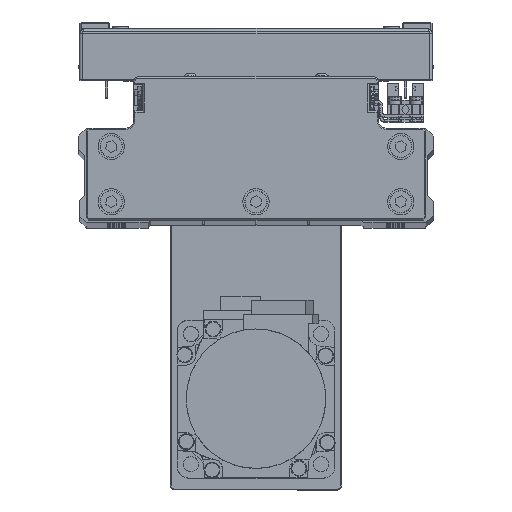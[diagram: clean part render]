
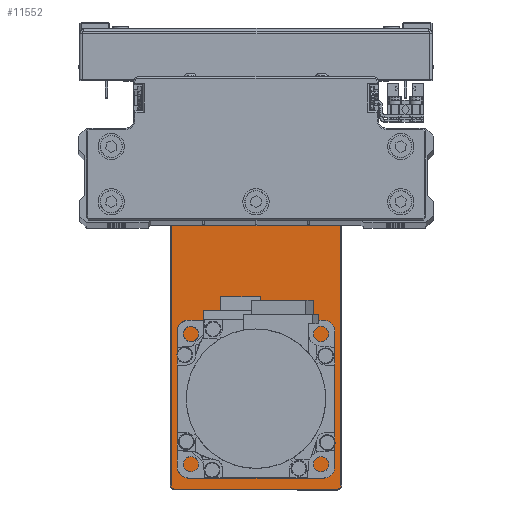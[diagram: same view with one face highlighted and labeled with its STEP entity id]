
A CAD part, top view. The second image highlights one B-rep face of the part: STEP entity #11552.
In plain terms, the highlighted planar face has unit normal (0, 0, 1) as drawn and (0, 1, 0) by its records, which use the part's own axes.
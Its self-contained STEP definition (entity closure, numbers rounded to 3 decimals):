
#271 = AXIS2_PLACEMENT_3D ( 'NONE', #2492, #16356, #30215 ) ;
#408 = DIRECTION ( 'NONE',  ( 0., 1., 0. ) ) ;
#1255 = VERTEX_POINT ( 'NONE', #27434 ) ;
#1323 = CARTESIAN_POINT ( 'NONE',  ( 84.7, 6., 0. ) ) ;
#1482 = VERTEX_POINT ( 'NONE', #32830 ) ;
#2011 = CARTESIAN_POINT ( 'NONE',  ( 75.992, 6., -8.551 ) ) ;
#2041 = CARTESIAN_POINT ( 'NONE',  ( 83.5, 6., 32.2 ) ) ;
#2192 = EDGE_CURVE ( 'NONE', #19247, #6097, #32470, .T. ) ;
#2254 = FACE_BOUND ( 'NONE', #6514, .T. ) ;
#2405 = DIRECTION ( 'NONE',  ( 0., 1., 0. ) ) ;
#2492 = CARTESIAN_POINT ( 'NONE',  ( -83.5, 6., -31. ) ) ;
#2595 = EDGE_CURVE ( 'NONE', #15942, #41357, #5531, .T. ) ;
#3118 = ORIENTED_EDGE ( 'NONE', *, *, #16363, .F. ) ;
#4341 = ORIENTED_EDGE ( 'NONE', *, *, #28495, .T. ) ;
#4578 = AXIS2_PLACEMENT_3D ( 'NONE', #30291, #44076, #13016 ) ;
#4676 = CIRCLE ( 'NONE', #30086, 10.3 ) ;
#4925 = AXIS2_PLACEMENT_3D ( 'NONE', #31547, #408, #14288 ) ;
#4938 = EDGE_CURVE ( 'NONE', #21101, #28999, #9535, .T. ) ;
#5013 = CARTESIAN_POINT ( 'NONE',  ( 84.7, 6., -31. ) ) ;
#5496 = ORIENTED_EDGE ( 'NONE', *, *, #11700, .F. ) ;
#5531 = CIRCLE ( 'NONE', #30914, 1.525 ) ;
#6097 = VERTEX_POINT ( 'NONE', #5013 ) ;
#6270 = EDGE_CURVE ( 'NONE', #42596, #20094, #43840, .T. ) ;
#6514 = EDGE_LOOP ( 'NONE', ( #3118, #32304 ) ) ;
#7553 = DIRECTION ( 'NONE',  ( 0., 1., 0. ) ) ;
#8206 = LINE ( 'NONE', #22080, #15590 ) ;
#8222 = ORIENTED_EDGE ( 'NONE', *, *, #10409, .T. ) ;
#9305 = DIRECTION ( 'NONE',  ( 0., -1., 0. ) ) ;
#9535 = LINE ( 'NONE', #23414, #27851 ) ;
#9798 = CARTESIAN_POINT ( 'NONE',  ( 52.5, 6., -10.3 ) ) ;
#9975 = DIRECTION ( 'NONE',  ( 1., 0., 0. ) ) ;
#10071 = DIRECTION ( 'NONE',  ( 0., -1., 0. ) ) ;
#10113 = DIRECTION ( 'NONE',  ( 0., 0., 1. ) ) ;
#10278 = CIRCLE ( 'NONE', #35660, 1.525 ) ;
#10409 = EDGE_CURVE ( 'NONE', #39709, #11527, #27231, .T. ) ;
#10695 = CIRCLE ( 'NONE', #36068, 1.2 ) ;
#11275 = DIRECTION ( 'NONE',  ( 0., 0., 1. ) ) ;
#11393 = DIRECTION ( 'NONE',  ( 0., 0., -1. ) ) ;
#11454 = AXIS2_PLACEMENT_3D ( 'NONE', #40399, #9305, #23175 ) ;
#11527 = VERTEX_POINT ( 'NONE', #2041 ) ;
#11552 = ADVANCED_FACE ( 'NONE', ( #2254, #16114, #29971, #43763, #12713 ), #26581, .F. ) ;
#11577 = ORIENTED_EDGE ( 'NONE', *, *, #32021, .F. ) ;
#11617 = ORIENTED_EDGE ( 'NONE', *, *, #42877, .T. ) ;
#11621 = ORIENTED_EDGE ( 'NONE', *, *, #41471, .F. ) ;
#11700 = EDGE_CURVE ( 'NONE', #1482, #34513, #24536, .T. ) ;
#12147 = ORIENTED_EDGE ( 'NONE', *, *, #6270, .T. ) ;
#12713 = FACE_BOUND ( 'NONE', #34875, .T. ) ;
#12776 = EDGE_CURVE ( 'NONE', #11527, #19247, #14439, .T. ) ;
#12826 = CARTESIAN_POINT ( 'NONE',  ( -84.7, 6., -31. ) ) ;
#12911 = DIRECTION ( 'NONE',  ( 0., 1., 0. ) ) ;
#12971 = DIRECTION ( 'NONE',  ( 0., -1., 0. ) ) ;
#13016 = DIRECTION ( 'NONE',  ( 0., 0., 1. ) ) ;
#13593 = AXIS2_PLACEMENT_3D ( 'NONE', #43965, #12911, #26769 ) ;
#14288 = DIRECTION ( 'NONE',  ( 0., 0., 1. ) ) ;
#14439 = CIRCLE ( 'NONE', #39804, 1.2 ) ;
#15093 = ORIENTED_EDGE ( 'NONE', *, *, #17422, .T. ) ;
#15182 = DIRECTION ( 'NONE',  ( 0., 0., -1. ) ) ;
#15438 = CARTESIAN_POINT ( 'NONE',  ( 84.7, 6., 31. ) ) ;
#15590 = VECTOR ( 'NONE', #35922, 1000. ) ;
#15649 = ORIENTED_EDGE ( 'NONE', *, *, #29671, .T. ) ;
#15678 = ORIENTED_EDGE ( 'NONE', *, *, #12776, .T. ) ;
#15876 = DIRECTION ( 'NONE',  ( 0., 1., 0. ) ) ;
#15942 = VERTEX_POINT ( 'NONE', #40614 ) ;
#16071 = ORIENTED_EDGE ( 'NONE', *, *, #4938, .T. ) ;
#16114 = FACE_BOUND ( 'NONE', #39011, .T. ) ;
#16265 = DIRECTION ( 'NONE',  ( 0., 0., -1. ) ) ;
#16278 = CIRCLE ( 'NONE', #41623, 1.2 ) ;
#16356 = DIRECTION ( 'NONE',  ( 0., 1., 0. ) ) ;
#16363 = EDGE_CURVE ( 'NONE', #41357, #15942, #33186, .T. ) ;
#17129 = VERTEX_POINT ( 'NONE', #12826 ) ;
#17227 = EDGE_CURVE ( 'NONE', #20094, #42596, #4676, .T. ) ;
#17422 = EDGE_CURVE ( 'NONE', #17129, #23073, #8206, .T. ) ;
#17661 = EDGE_LOOP ( 'NONE', ( #11617, #16071, #4341, #15093, #15649, #8222, #15678, #31763 ) ) ;
#19247 = VERTEX_POINT ( 'NONE', #15438 ) ;
#19366 = ORIENTED_EDGE ( 'NONE', *, *, #27948, .F. ) ;
#19881 = CIRCLE ( 'NONE', #271, 1.2 ) ;
#20094 = VERTEX_POINT ( 'NONE', #9798 ) ;
#20355 = ORIENTED_EDGE ( 'NONE', *, *, #17227, .T. ) ;
#21101 = VERTEX_POINT ( 'NONE', #28802 ) ;
#21425 = DIRECTION ( 'NONE',  ( 0., 0., -1. ) ) ;
#22080 = CARTESIAN_POINT ( 'NONE',  ( -84.7, 6., 0. ) ) ;
#23073 = VERTEX_POINT ( 'NONE', #28254 ) ;
#23175 = DIRECTION ( 'NONE',  ( 0., 0., -1. ) ) ;
#23414 = CARTESIAN_POINT ( 'NONE',  ( 0., 6., -32.2 ) ) ;
#23937 = DIRECTION ( 'NONE',  ( 0., 0., -1. ) ) ;
#24186 = CIRCLE ( 'NONE', #4578, 15. ) ;
#24320 = AXIS2_PLACEMENT_3D ( 'NONE', #44030, #12971, #26824 ) ;
#24536 = CIRCLE ( 'NONE', #4925, 15. ) ;
#24970 = CARTESIAN_POINT ( 'NONE',  ( 61.051, 6., 25.017 ) ) ;
#26581 = PLANE ( 'NONE',  #11454 ) ;
#26769 = DIRECTION ( 'NONE',  ( 0., 0., 1. ) ) ;
#26824 = DIRECTION ( 'NONE',  ( 0., 0., -1. ) ) ;
#27231 = LINE ( 'NONE', #41050, #41798 ) ;
#27400 = CARTESIAN_POINT ( 'NONE',  ( 75.992, 6., -8.551 ) ) ;
#27434 = CARTESIAN_POINT ( 'NONE',  ( 75.992, 6., -10.076 ) ) ;
#27851 = VECTOR ( 'NONE', #37255, 1000. ) ;
#27948 = EDGE_CURVE ( 'NONE', #34513, #1482, #24186, .T. ) ;
#28254 = CARTESIAN_POINT ( 'NONE',  ( -84.7, 6., 31. ) ) ;
#28495 = EDGE_CURVE ( 'NONE', #28999, #17129, #19881, .T. ) ;
#28534 = CARTESIAN_POINT ( 'NONE',  ( 61.051, 6., 23.492 ) ) ;
#28642 = CARTESIAN_POINT ( 'NONE',  ( -83.5, 6., 31. ) ) ;
#28802 = CARTESIAN_POINT ( 'NONE',  ( 83.5, 6., -32.2 ) ) ;
#28999 = VERTEX_POINT ( 'NONE', #43962 ) ;
#29671 = EDGE_CURVE ( 'NONE', #23073, #39709, #16278, .T. ) ;
#29725 = DIRECTION ( 'NONE',  ( 0., 0., 1. ) ) ;
#29971 = FACE_BOUND ( 'NONE', #30882, .T. ) ;
#30086 = AXIS2_PLACEMENT_3D ( 'NONE', #41159, #10071, #23937 ) ;
#30215 = DIRECTION ( 'NONE',  ( 0., 0., -1. ) ) ;
#30291 = CARTESIAN_POINT ( 'NONE',  ( -50.5, 6., 0. ) ) ;
#30882 = EDGE_LOOP ( 'NONE', ( #12147, #20355 ) ) ;
#30914 = AXIS2_PLACEMENT_3D ( 'NONE', #28534, #42341, #11275 ) ;
#31547 = CARTESIAN_POINT ( 'NONE',  ( -50.5, 6., 0. ) ) ;
#31763 = ORIENTED_EDGE ( 'NONE', *, *, #2192, .T. ) ;
#31811 = CARTESIAN_POINT ( 'NONE',  ( -50.5, 6., 15. ) ) ;
#32021 = EDGE_CURVE ( 'NONE', #1255, #44761, #10278, .T. ) ;
#32304 = ORIENTED_EDGE ( 'NONE', *, *, #2595, .F. ) ;
#32348 = CIRCLE ( 'NONE', #38135, 1.525 ) ;
#32470 = LINE ( 'NONE', #1323, #36693 ) ;
#32830 = CARTESIAN_POINT ( 'NONE',  ( -50.5, 6., -15. ) ) ;
#33186 = CIRCLE ( 'NONE', #13593, 1.525 ) ;
#33532 = CARTESIAN_POINT ( 'NONE',  ( 83.5, 6., -31. ) ) ;
#34513 = VERTEX_POINT ( 'NONE', #31811 ) ;
#34875 = EDGE_LOOP ( 'NONE', ( #19366, #5496 ) ) ;
#35660 = AXIS2_PLACEMENT_3D ( 'NONE', #27400, #41201, #10113 ) ;
#35922 = DIRECTION ( 'NONE',  ( 0., 0., 1. ) ) ;
#36068 = AXIS2_PLACEMENT_3D ( 'NONE', #33532, #2405, #16265 ) ;
#36693 = VECTOR ( 'NONE', #15182, 1000. ) ;
#37136 = CARTESIAN_POINT ( 'NONE',  ( -83.5, 6., 32.2 ) ) ;
#37255 = DIRECTION ( 'NONE',  ( -1., 0., 0. ) ) ;
#38135 = AXIS2_PLACEMENT_3D ( 'NONE', #2011, #15876, #29725 ) ;
#38655 = CARTESIAN_POINT ( 'NONE',  ( 83.5, 6., 31. ) ) ;
#39011 = EDGE_LOOP ( 'NONE', ( #11621, #11577 ) ) ;
#39709 = VERTEX_POINT ( 'NONE', #37136 ) ;
#39804 = AXIS2_PLACEMENT_3D ( 'NONE', #38655, #7553, #21425 ) ;
#40399 = CARTESIAN_POINT ( 'NONE',  ( 0., 6., 0. ) ) ;
#40614 = CARTESIAN_POINT ( 'NONE',  ( 61.051, 6., 21.967 ) ) ;
#41050 = CARTESIAN_POINT ( 'NONE',  ( 0., 6., 32.2 ) ) ;
#41159 = CARTESIAN_POINT ( 'NONE',  ( 52.5, 6., 0. ) ) ;
#41201 = DIRECTION ( 'NONE',  ( 0., 1., 0. ) ) ;
#41357 = VERTEX_POINT ( 'NONE', #24970 ) ;
#41471 = EDGE_CURVE ( 'NONE', #44761, #1255, #32348, .T. ) ;
#41623 = AXIS2_PLACEMENT_3D ( 'NONE', #28642, #42459, #11393 ) ;
#41798 = VECTOR ( 'NONE', #9975, 1000. ) ;
#42266 = CARTESIAN_POINT ( 'NONE',  ( 75.992, 6., -7.026 ) ) ;
#42341 = DIRECTION ( 'NONE',  ( 0., 1., 0. ) ) ;
#42459 = DIRECTION ( 'NONE',  ( 0., 1., 0. ) ) ;
#42596 = VERTEX_POINT ( 'NONE', #44850 ) ;
#42877 = EDGE_CURVE ( 'NONE', #6097, #21101, #10695, .T. ) ;
#43763 = FACE_OUTER_BOUND ( 'NONE', #17661, .T. ) ;
#43840 = CIRCLE ( 'NONE', #24320, 10.3 ) ;
#43962 = CARTESIAN_POINT ( 'NONE',  ( -83.5, 6., -32.2 ) ) ;
#43965 = CARTESIAN_POINT ( 'NONE',  ( 61.051, 6., 23.492 ) ) ;
#44030 = CARTESIAN_POINT ( 'NONE',  ( 52.5, 6., 0. ) ) ;
#44076 = DIRECTION ( 'NONE',  ( 0., 1., 0. ) ) ;
#44761 = VERTEX_POINT ( 'NONE', #42266 ) ;
#44850 = CARTESIAN_POINT ( 'NONE',  ( 52.5, 6., 10.3 ) ) ;
